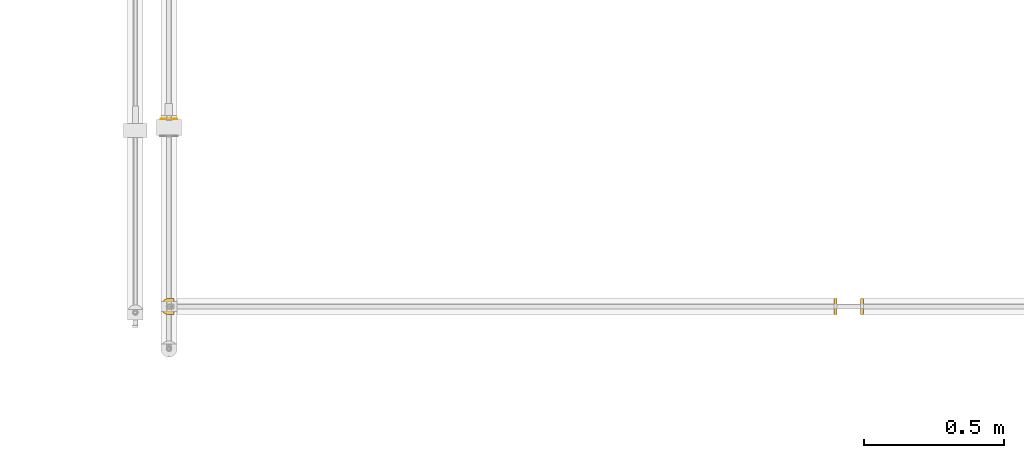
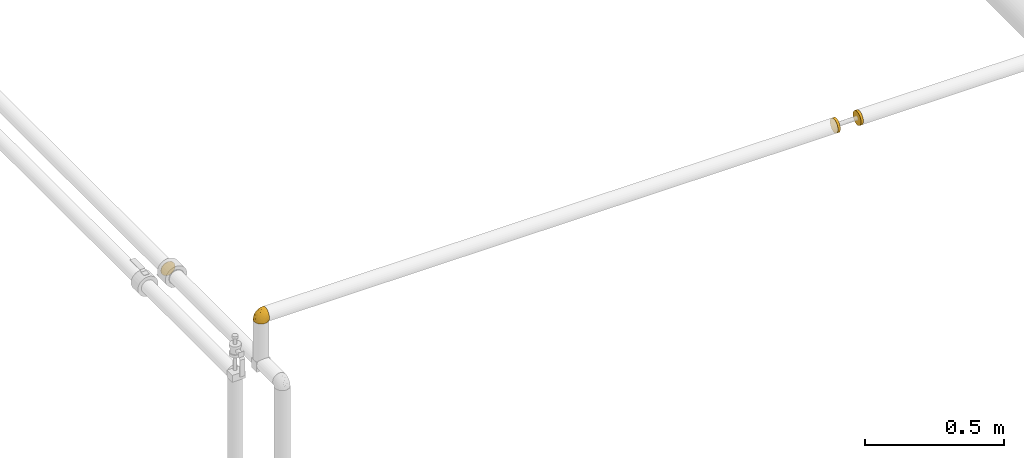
# One storey, part 5 of 78: 4 coverings.
"""IFC2X3 building model written with IfcOpenShell, lengths in millimetres."""

from ifc_helpers import new_model, entity, si_unit, converted_unit, derived_unit, direction, frame, origin_with_axes, place, context, subcontext, project, spatial, open_shell, surface_model, source, transform, mapped, element, save


model = new_model("IFC2X3")

# Units and contexts
model_context = context("Model", 3, precision=0.01, world=frame((0.0, 4.29681676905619e-09, 0.0)), true_north=direction((4.01073788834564e-13, 1.0)))
plan_context = context("Plan", 3, precision=0.01, world=frame((0.0, 4.29681676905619e-09, 0.0)), true_north=direction((4.01073788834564e-13, 1.0)))
body_context = subcontext(model_context, "Body", "Model", "MODEL_VIEW")
ifc_project = project(units=[converted_unit("PLANEANGLEUNIT", "DEGREE", entity("IfcPositiveLengthMeasure", 0.0174532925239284), si_unit("PLANEANGLEUNIT", "RADIAN"), dimensions=[0, 0, 0, 0, 0, 0, 0]), si_unit("AREAUNIT", "SQUARE_METRE"), si_unit("LENGTHUNIT", "METRE", prefix="MILLI"), si_unit("MASSUNIT", "GRAM", prefix="KILO"), si_unit("POWERUNIT", "WATT"), si_unit("PRESSUREUNIT", "PASCAL"), si_unit("FORCEUNIT", "NEWTON", prefix="KILO"), si_unit("ELECTRICVOLTAGEUNIT", "VOLT"), si_unit("ELECTRICCURRENTUNIT", "AMPERE"), si_unit("THERMODYNAMICTEMPERATUREUNIT", "DEGREE_CELSIUS"), si_unit("TIMEUNIT", "SECOND"), si_unit("VOLUMEUNIT", "CUBIC_METRE"), derived_unit("LINEARVELOCITYUNIT", [(si_unit("LENGTHUNIT", "METRE"), 1), (si_unit("TIMEUNIT", "SECOND"), -1)]), derived_unit("VOLUMETRICFLOWRATEUNIT", [(si_unit("VOLUMEUNIT", "CUBIC_METRE"), 1), (si_unit("TIMEUNIT", "SECOND"), -1)]), derived_unit("THERMALTRANSMITTANCEUNIT", [(si_unit("POWERUNIT", "WATT"), 1), (si_unit("THERMODYNAMICTEMPERATUREUNIT", "KELVIN"), -1), (si_unit("AREAUNIT", "SQUARE_METRE"), -1)]), derived_unit("SOUNDPRESSUREUNIT", [(si_unit("PRESSUREUNIT", "PASCAL"), 1)])], contexts=[model_context, plan_context])

# Site, building, storey
site_placement = place(None, frame((0.0, -4.29681676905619e-09, 0.0), z_axis=(0.0, 0.0, 1.0), x_axis=(1.0, 0.0, 0.0)))
site = spatial("IfcSite", under=ifc_project, at=site_placement, Name="ENGM", CompositionType="ELEMENT")
building_placement = place(site_placement, frame((0.0, 4.29681676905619e-09, 0.0), z_axis=(0.0, 0.0, 1.0), x_axis=(1.0, 0.0, 0.0)))
building = spatial("IfcBuilding", under=site, at=building_placement, Name="TH", CompositionType="ELEMENT")
storey_placement = place(building_placement, frame((0.0, 0.0, 205200.0), z_axis=(0.0, 0.0, 1.0), x_axis=(1.0, 0.0, 0.0)))
storey = spatial("IfcBuildingStorey", under=building, at=storey_placement, Name="Nivå D + 1,2 m", CompositionType="ELEMENT", Elevation=205200.0)

# Coverings
shared_shape_1 = source(origin_with_axes(), body_context, "Body", "SurfaceModel", [
    surface_model("IfcShellBasedSurfaceModel", [(12.5872, 18.0, 26.12589), (18.08563, 18.0, 22.66959), (22.67648, 18.0, 18.07698), (26.13012, 18.0, 12.57843), (28.27375, 18.0, 6.44942), (-6.31725, 18.0, 28.30358), (-17.77173, 18.0, -22.9165), (0.0, 18.0, 29.0), (6.45633, 18.0, 28.27217), (-17.77173, 18.0, 22.9165), (-12.34105, 18.0, 26.24307), (28.27217, 18.0, -6.45633), (22.66959, 18.0, -18.08563), (26.12589, 18.0, -12.5872), (18.07698, 18.0, -22.67648), (-12.3529, 18.0, -26.23749), (-6.33004, 18.0, -28.30072), (6.44942, 18.0, -28.27375), (12.57843, 18.0, -26.13012), (0.0, 18.0, -29.0), (29.0, 18.0, 0.0), (-18.0, 17.77173, 22.9165), (-18.0, 17.77173, -22.9165), (-18.0, 12.34563, -26.24091), (-18.0, 6.32509, -28.30182), (-18.0, 0.0, -29.0), (-18.0, 0.0, 29.0), (-18.0, 12.34563, 26.24091), (-18.0, 6.32509, 28.30182), (-18.0, -14.5, 25.11474), (-18.0, -7.50575, 28.01185), (-18.0, -7.50575, -28.01185), (-18.0, -14.5, -25.11474), (-18.0, -28.01185, -7.50575), (-18.0, -25.11474, -14.5), (-18.0, -20.5061, -20.5061), (-18.0, -28.01185, 7.50575), (-18.0, -20.5061, 20.5061), (-18.0, -25.11474, 14.5), (-18.0, -29.0, 0.0), (-17.83859, 17.83859, 22.9165), (-17.83859, 17.83859, -22.9165), (-11.91423, 11.9123, -27.437), (-5.27208, 5.27208, -29.0), (-15.63786, 14.48961, -25.5229), (25.93601, 6.67854, -9.58205), (27.02342, 8.06308, 0.0), (-11.58944, -10.38288, -26.79251), (-8.72435, -16.42638, -23.00725), (-2.15074, -19.82057, -17.65408), (-10.78654, -22.36781, -17.65408), (-10.90925, -4.53647, -28.44912), (-4.56412, -7.81008, -26.79251), (1.42942, -22.15165, -11.53878), (4.08186, -22.64535, -6.52508), (-4.04847, -26.34204, -5.44064), (-6.34693, -25.25014, -11.09782), (8.70204, 11.12014, -27.37401), (12.30526, -12.14334, -15.12435), (15.68692, -5.11925, -17.84797), (18.58838, -6.20359, -13.10629), (-1.45635, 14.48406, -29.0), (20.49628, -7.02537, -7.85654), (-14.48406, 1.45635, -29.0), (17.63513, 1.45693, -19.69333), (20.97621, 0.92546, -15.43347), (14.81555, 11.64794, -24.55768), (19.28448, 8.39344, -20.51001), (12.61582, 4.58807, -24.55768), (4.16849, 4.09476, -27.82577), (3.89702, -4.58536, -25.68841), (-2.23671, -1.20763, -28.17991), (0.57021, -13.0879, -22.56817), (9.4476, -9.00088, -20.51001), (23.77672, 9.91353, -15.43347), (25.42234, 0.01388, 0.0), (15.09054, -13.36351, -8.92567), (-8.45406, 3.95406, -29.0), (-6.64688, -2.8871, -28.41954), (-11.63604, 2.63604, -29.0), (-2.9127, 10.96811, -29.0), (15.23402, -15.23402, 0.0), (20.32818, -7.61007, 0.0), (8.70429, -18.28971, -10.43847), (11.53611, -17.98985, -5.04364), (5.36399, -15.33486, -18.03817), (-8.06308, -27.02342, 0.0), (8.1898, 0.02909, -25.52631), (12.51117, -2.09819, -22.30296), (-4.09239, 8.1201, -29.0), (-0.01388, -25.42234, 0.0), (7.61007, -20.32818, 0.0), (-2.15312, -19.82156, 17.65408), (0.57215, -13.08608, 22.56863), (-8.72508, -16.42658, 23.00725), (-4.04847, -26.34203, 5.4407), (-10.78795, -22.36806, 17.65408), (-6.34785, -25.25039, 11.09782), (25.939, 6.67899, 9.57411), (1.43206, -22.14749, 11.54476), (-11.58944, -10.38288, 26.79251), (20.50587, -7.01305, 7.85179), (20.98134, 0.92337, 15.42467), (4.16859, 4.08516, 27.82424), (8.70955, 11.11747, 27.37123), (-2.9127, 10.96811, 29.0), (8.71076, -18.28571, 10.43687), (11.53628, -17.99007, 5.04207), (15.09914, -13.35631, 8.92169), (12.51139, -2.10414, 22.30009), (8.20363, 0.03075, 25.52066), (3.90743, -4.56802, 25.69113), (-2.23663, -1.20773, 28.17988), (-6.92531, -2.24067, 28.55295), (-4.56412, -7.81008, 26.79251), (15.69231, -5.11628, 17.84442), (9.45318, -9.00636, 20.50219), (12.31497, -12.1393, 15.11775), (23.78211, 9.91229, 15.42467), (19.29205, 8.39148, 20.50219), (14.82422, 11.64641, 24.55215), (12.62384, 4.58443, 24.55215), (17.64599, 1.45836, 19.68333), (-11.63604, 2.63604, 29.0), (-14.48406, 1.45635, 29.0), (-10.90925, -4.53647, 28.44912), (5.3697, -15.3417, 18.027), (-1.45635, 14.48406, 29.0), (4.08207, -22.64476, 6.52689), (-5.27208, 5.27208, 29.0), (-4.09239, 8.1201, 29.0), (-8.45406, 3.95406, 29.0), (18.10711, -6.95019, 13.06771), (-11.91423, 11.9123, 27.437), (-10.60868, 7.01569, 28.60662)], [open_shell([[[0, 1, 2]], [[2, 3, 4]], [[0, 2, 5]], [[2, 6, 5]], [[7, 8, 0]], [[6, 9, 10]], [[6, 10, 5]], [[7, 0, 5]], [[2, 4, 6]], [[4, 11, 6]], [[11, 12, 6]], [[12, 11, 13]], [[14, 6, 12]], [[15, 6, 16]], [[17, 14, 18]], [[6, 14, 17]], [[19, 16, 6]], [[19, 6, 17]], [[11, 4, 20]], [[21, 22, 23]], [[24, 25, 23]], [[26, 23, 25]], [[27, 21, 28]], [[21, 26, 28]], [[21, 23, 26]], [[26, 29, 30]], [[26, 25, 29]], [[31, 32, 33]], [[34, 33, 32]], [[34, 32, 35]], [[31, 33, 36]], [[37, 29, 36]], [[37, 36, 38]], [[29, 31, 36]], [[33, 39, 36]], [[31, 29, 25]], [[22, 21, 40]], [[41, 22, 40]], [[9, 6, 40]], [[41, 40, 6]], [[42, 24, 23]], [[25, 24, 43]], [[43, 24, 42]], [[42, 23, 44]], [[22, 41, 44]], [[41, 6, 15]], [[19, 43, 16]], [[15, 44, 41]], [[22, 44, 23]], [[15, 16, 42]], [[15, 42, 44]], [[43, 42, 16]], [[45, 11, 46]], [[32, 31, 47]], [[45, 13, 11]], [[48, 49, 50]], [[47, 51, 52]], [[53, 54, 55]], [[55, 33, 56]], [[18, 57, 17]], [[50, 34, 35]], [[35, 32, 48]], [[58, 59, 60]], [[34, 50, 56]], [[17, 61, 19]], [[45, 62, 60]], [[31, 25, 63]], [[64, 65, 59]], [[66, 67, 68]], [[69, 70, 71]], [[18, 66, 57]], [[66, 18, 14]], [[72, 70, 73]], [[67, 14, 12]], [[74, 67, 12]], [[62, 45, 75]], [[64, 67, 65]], [[58, 60, 76]], [[12, 13, 74]], [[49, 48, 72]], [[75, 45, 46]], [[65, 74, 45]], [[34, 56, 33]], [[77, 78, 79]], [[69, 80, 57]], [[57, 61, 17]], [[81, 62, 82]], [[69, 57, 68]], [[83, 84, 54]], [[47, 48, 32]], [[72, 73, 85]], [[53, 83, 54]], [[33, 55, 86]], [[58, 85, 73]], [[43, 69, 71]], [[70, 87, 88]], [[69, 43, 89]], [[11, 20, 46]], [[45, 74, 13]], [[67, 74, 65]], [[67, 66, 14]], [[57, 66, 68]], [[63, 51, 31]], [[48, 47, 52]], [[48, 52, 72]], [[70, 72, 52]], [[52, 51, 78]], [[88, 87, 68]], [[51, 63, 79]], [[71, 77, 43]], [[31, 51, 47]], [[71, 52, 78]], [[79, 78, 51]], [[52, 71, 70]], [[86, 55, 90]], [[86, 39, 33]], [[84, 81, 91]], [[91, 90, 54]], [[55, 54, 90]], [[76, 84, 83]], [[91, 54, 84]], [[53, 55, 56]], [[56, 49, 53]], [[85, 53, 49]], [[58, 76, 83]], [[76, 62, 81]], [[83, 53, 85]], [[59, 58, 73]], [[83, 85, 58]], [[72, 85, 49]], [[88, 59, 73]], [[60, 59, 65]], [[70, 88, 73]], [[64, 68, 67]], [[70, 69, 87]], [[69, 68, 87]], [[45, 60, 65]], [[60, 62, 76]], [[59, 88, 64]], [[68, 64, 88]], [[48, 50, 35]], [[56, 50, 49]], [[57, 80, 61]], [[62, 75, 82]], [[81, 84, 76]], [[89, 80, 69]], [[77, 71, 78]], [[92, 93, 94]], [[90, 95, 86]], [[96, 97, 92]], [[3, 98, 4]], [[38, 36, 97]], [[95, 99, 97]], [[30, 29, 100]], [[101, 98, 102]], [[103, 104, 105]], [[104, 0, 8]], [[106, 107, 108]], [[29, 37, 94]], [[109, 110, 111]], [[112, 113, 114]], [[37, 38, 96]], [[115, 116, 117]], [[102, 118, 119]], [[1, 119, 2]], [[37, 96, 94]], [[98, 3, 118]], [[98, 46, 4]], [[1, 0, 120]], [[121, 109, 122]], [[121, 104, 103]], [[104, 121, 120]], [[101, 75, 98]], [[109, 116, 115]], [[123, 124, 125]], [[117, 126, 106]], [[93, 111, 114]], [[30, 124, 26]], [[120, 119, 1]], [[81, 101, 108]], [[3, 2, 118]], [[8, 127, 104]], [[119, 118, 2]], [[101, 81, 82]], [[36, 86, 95]], [[95, 128, 99]], [[90, 91, 128]], [[106, 108, 117]], [[92, 126, 93]], [[100, 94, 114]], [[129, 103, 130]], [[112, 131, 113]], [[46, 98, 75]], [[46, 20, 4]], [[98, 118, 102]], [[104, 120, 0]], [[119, 120, 121]], [[94, 100, 29]], [[125, 30, 100]], [[111, 93, 116]], [[114, 94, 93]], [[111, 116, 109]], [[103, 129, 112]], [[112, 114, 111]], [[30, 125, 124]], [[114, 125, 100]], [[131, 112, 129]], [[125, 113, 123]], [[103, 112, 111]], [[36, 39, 86]], [[107, 128, 91]], [[36, 95, 97]], [[108, 107, 81]], [[81, 107, 91]], [[128, 107, 106]], [[128, 106, 99]], [[128, 95, 90]], [[126, 99, 106]], [[92, 97, 99]], [[103, 105, 130]], [[115, 132, 102]], [[108, 101, 132]], [[126, 117, 116]], [[132, 115, 117]], [[102, 119, 122]], [[122, 115, 102]], [[109, 121, 110]], [[121, 103, 110]], [[103, 111, 110]], [[93, 126, 116]], [[126, 92, 99]], [[108, 132, 117]], [[102, 132, 101]], [[121, 122, 119]], [[109, 115, 122]], [[97, 96, 38]], [[94, 96, 92]], [[127, 8, 7]], [[127, 105, 104]], [[82, 75, 101]], [[123, 113, 131]], [[114, 113, 125]], [[133, 27, 28]], [[21, 27, 40]], [[40, 27, 133]], [[133, 28, 134]], [[26, 129, 134]], [[129, 7, 5]], [[9, 40, 10]], [[5, 134, 129]], [[26, 134, 28]], [[5, 10, 133]], [[5, 133, 134]], [[40, 133, 10]]])]),
])
covering_1_placement = place(storey_placement, frame((900010.50163, 478275.49112, 4410.0), z_axis=(0.0, 1.0, 0.0), x_axis=(0.0, 0.0, 1.0)))
element("IfcCovering", 1, at=covering_1_placement, inside=storey, Name="BI20T - Cellegummi 13 mm kalde rør", PredefinedType="INSULATION", context=body_context, shape_type="MappedRepresentation", body=[
    mapped(shared_shape_1, transform((0.0, 0.0, 0.0), scale=1.0)),
])
shared_shape_2 = source(origin_with_axes(), body_context, "Body", "SurfaceModel", [
    surface_model("IfcShellBasedSurfaceModel", [(0.0, 0.0, 29.0), (0.0, 7.50575, 28.01185), (0.0, 14.5, 25.11474), (0.0, -20.5061, 20.5061), (0.0, 25.11474, 14.5), (0.0, 20.5061, 20.5061), (0.0, 25.11474, -14.5), (0.0, -7.50575, 28.01185), (0.0, -14.5, 25.11474), (0.0, -28.01185, 7.50575), (0.0, -25.11474, 14.5), (0.0, -28.01185, -7.50575), (0.0, -29.0, 0.0), (0.0, 29.0, 0.0), (0.0, 28.01185, 7.50575), (0.0, 28.01185, -7.50575), (0.0, 14.5, -25.11474), (0.0, 20.5061, -20.5061), (0.0, 7.50575, -28.01185), (0.0, 0.0, -29.0), (0.0, -20.5061, -20.5061), (0.0, -25.11474, -14.5), (0.0, -14.5, -25.11474), (0.0, -7.50575, -28.01185), (10.0, 14.5, -25.11474), (10.0, 0.0, -29.0), (10.0, 7.50575, -28.01185), (10.0, 25.11474, -14.5), (10.0, 20.5061, -20.5061), (10.0, 28.01185, -7.50575), (10.0, 29.0, 0.0), (10.0, -28.01185, 7.50575), (10.0, -14.5, -25.11474), (10.0, -7.50575, -28.01185), (10.0, -28.01185, -7.50575), (10.0, -20.5061, -20.5061), (10.0, -25.11474, -14.5), (10.0, 28.01185, 7.50575), (10.0, 0.0, 29.0), (10.0, 25.11474, 14.5), (10.0, 14.5, 25.11474), (10.0, 20.5061, 20.5061), (10.0, 7.50575, 28.01185), (10.0, -7.50575, 28.01185), (10.0, -20.5061, 20.5061), (10.0, -25.11474, 14.5), (10.0, -29.0, 0.0), (10.0, -14.5, 25.11474)], [open_shell([[[0, 1, 2]], [[3, 0, 2]], [[3, 2, 4]], [[4, 2, 5]], [[4, 6, 3]], [[7, 3, 8]], [[7, 0, 3]], [[3, 9, 10]], [[3, 6, 9]], [[9, 11, 12]], [[13, 4, 14]], [[13, 15, 6]], [[9, 6, 11]], [[6, 16, 11]], [[16, 6, 17]], [[18, 19, 16]], [[11, 20, 21]], [[20, 11, 22]], [[22, 19, 23]], [[19, 22, 11]], [[11, 16, 19]], [[6, 4, 13]], [[24, 25, 26]], [[27, 24, 28]], [[27, 29, 30]], [[25, 24, 27]], [[27, 31, 25]], [[25, 32, 33]], [[32, 25, 34]], [[35, 34, 36]], [[34, 35, 32]], [[34, 25, 31]], [[27, 30, 37]], [[38, 37, 39]], [[40, 39, 41]], [[40, 42, 38]], [[40, 38, 39]], [[37, 38, 43]], [[31, 44, 45]], [[46, 34, 31]], [[44, 43, 47]], [[31, 27, 44]], [[44, 27, 43]], [[37, 43, 27]], [[37, 13, 14]], [[39, 14, 4]], [[30, 13, 37]], [[39, 37, 14]], [[41, 39, 4]], [[4, 5, 41]], [[40, 5, 2]], [[42, 2, 1]], [[40, 2, 42]], [[38, 42, 1]], [[0, 38, 1]], [[5, 40, 41]], [[43, 0, 7]], [[47, 7, 8]], [[38, 0, 43]], [[47, 43, 7]], [[44, 47, 8]], [[8, 3, 44]], [[45, 3, 10]], [[31, 10, 9]], [[45, 10, 31]], [[46, 31, 9]], [[12, 46, 9]], [[3, 45, 44]], [[34, 12, 11]], [[36, 11, 21]], [[46, 12, 34]], [[36, 34, 11]], [[35, 36, 21]], [[21, 20, 35]], [[32, 20, 22]], [[33, 22, 23]], [[32, 22, 33]], [[25, 33, 23]], [[19, 25, 23]], [[20, 32, 35]], [[26, 19, 18]], [[24, 18, 16]], [[25, 19, 26]], [[24, 26, 18]], [[28, 24, 16]], [[16, 17, 28]], [[27, 17, 6]], [[29, 6, 15]], [[27, 6, 29]], [[30, 29, 15]], [[13, 30, 15]], [[17, 27, 28]]])]),
])
for number, where, z_axis, x_axis in (
    (2, (902383.50163, 478275.49112, 4410.0), (0.0, 0.0, 1.0), (1.0, 0.0, 0.0)),
    (3, (902478.50163, 478275.49112, 4410.0), (0.0, 0.0, 1.0), (1.0, 0.0, 0.0)),
):
    element("IfcCovering", number, at=place(storey_placement, frame(where, z_axis=z_axis, x_axis=x_axis)), inside=storey, Name="BI20T - Cellegummi 13 mm kalde rør", PredefinedType="INSULATION", context=body_context, shape_type="MappedRepresentation", body=[
        mapped(shared_shape_2, transform((0.0, 0.0, 0.0), scale=1.0)),
    ])
shared_shape_3 = source(origin_with_axes(), body_context, "Body", "SurfaceModel", [
    surface_model("IfcShellBasedSurfaceModel", [(2.0, 0.0, 30.0), (2.0, -15.0, 25.98076), (2.0, -25.98076, 15.0), (2.0, 15.0, -25.98076), (2.0, 15.0, 25.98076), (2.0, 25.98076, 15.0), (2.0, 30.0, 0.0), (2.0, 0.0, -30.0), (2.0, -30.0, 0.0), (2.0, -15.0, -25.98076), (2.0, 25.98076, -15.0), (2.0, -25.98076, -15.0), (0.0, -15.0, 25.98076), (0.0, 0.0, 30.0), (0.0, 15.0, 25.98076), (0.0, 25.98076, -15.0), (0.0, -30.0, 0.0), (0.0, -25.98076, 15.0), (0.0, 25.98076, 15.0), (0.0, 30.0, 0.0), (0.0, -15.0, -25.98076), (0.0, 15.0, -25.98076), (0.0, -25.98076, -15.0), (0.0, 0.0, -30.0), (0.0, -27.99038, -7.5), (2.0, -28.47077, -5.70715), (0.0, -20.49038, -20.49038), (2.0, -7.5, -27.99038), (0.0, -5.70715, -28.47077), (2.0, -20.49038, -20.49038), (0.0, 7.5, -27.99038), (2.0, 5.70715, -28.47077), (0.0, 20.49038, -20.49038), (2.0, 27.99038, -7.5), (0.0, 28.47077, -5.70715), (2.0, 20.49038, -20.49038), (0.0, 27.99038, 7.5), (2.0, 28.47077, 5.70715), (0.0, 20.49038, 20.49038), (2.0, 7.5, 27.99038), (0.0, 5.70715, 28.47077), (2.0, 20.49038, 20.49038), (0.0, -7.5, 27.99038), (2.0, -5.70715, 28.47077), (0.0, -20.49038, 20.49038), (2.0, -27.99038, 7.5), (0.0, -28.47077, 5.70715), (2.0, -20.49038, 20.49038)], [open_shell([[[0, 1, 2]], [[3, 4, 2]], [[2, 4, 0]], [[5, 4, 6]], [[7, 2, 8]], [[9, 7, 8]], [[7, 3, 2]], [[6, 3, 10]], [[6, 4, 3]], [[9, 8, 11]], [[12, 13, 14]], [[15, 16, 14]], [[14, 17, 12]], [[17, 14, 16]], [[14, 18, 19]], [[16, 15, 20]], [[20, 15, 21]], [[20, 22, 16]], [[20, 21, 23]], [[14, 19, 15]], [[11, 24, 22]], [[16, 25, 8]], [[25, 16, 24]], [[9, 26, 20]], [[20, 27, 9]], [[27, 20, 28]], [[26, 9, 29]], [[28, 7, 27]], [[29, 11, 22]], [[29, 22, 26]], [[28, 23, 7]], [[11, 25, 24]], [[3, 30, 21]], [[23, 31, 7]], [[31, 23, 30]], [[10, 32, 15]], [[15, 33, 10]], [[33, 15, 34]], [[32, 10, 35]], [[34, 6, 33]], [[35, 3, 21]], [[35, 21, 32]], [[34, 19, 6]], [[3, 31, 30]], [[5, 36, 18]], [[19, 37, 6]], [[37, 19, 36]], [[4, 38, 14]], [[14, 39, 4]], [[39, 14, 40]], [[38, 4, 41]], [[40, 0, 39]], [[41, 5, 18]], [[41, 18, 38]], [[40, 13, 0]], [[5, 37, 36]], [[1, 42, 12]], [[13, 43, 0]], [[43, 13, 42]], [[2, 44, 17]], [[17, 45, 2]], [[45, 17, 46]], [[44, 2, 47]], [[46, 8, 45]], [[47, 1, 12]], [[47, 12, 44]], [[46, 16, 8]], [[1, 43, 42]]])]),
])
covering_2_placement = place(storey_placement, frame((900010.50163, 478944.96045, 4210.0), z_axis=(0.0, 0.0, 1.0), x_axis=(0.0, -1.0, 0.0)))
element("IfcCovering", 4, at=covering_2_placement, inside=storey, Name="BI20T - Cellegummi 13 mm kalde rør", PredefinedType="INSULATION", context=body_context, shape_type="MappedRepresentation", body=[
    mapped(shared_shape_3, transform((0.0, 0.0, 0.0), scale=1.0)),
])

save(model, "model.ifc")
